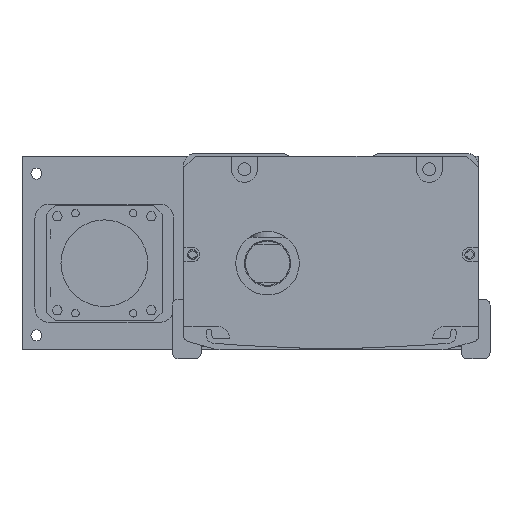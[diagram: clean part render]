
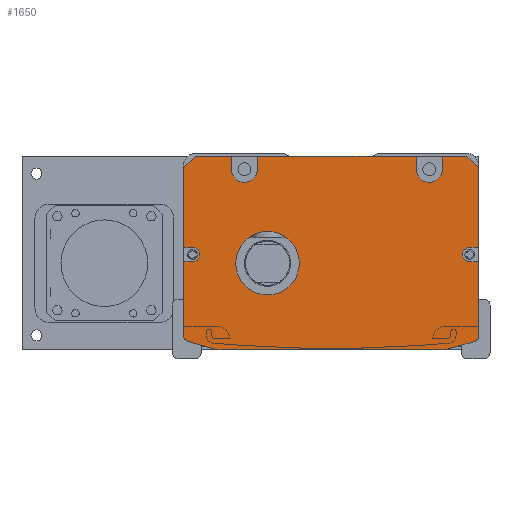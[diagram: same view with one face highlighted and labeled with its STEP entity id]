
A CAD part, front view. The second image highlights one B-rep face of the part: STEP entity #1650.
In plain terms, the highlighted planar face has unit normal (0, -1, 0).
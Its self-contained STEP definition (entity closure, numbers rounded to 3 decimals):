
#1650=ADVANCED_FACE('',(#4348,#4349),#2344,.F.);
#2344=PLANE('',#13833);
#2648=LINE('',#19323,#3453);
#2652=LINE('',#19331,#3457);
#2662=LINE('',#19352,#3467);
#2666=LINE('',#19360,#3471);
#2935=LINE('',#20353,#3740);
#2936=LINE('',#20355,#3741);
#2937=LINE('',#20357,#3742);
#2938=LINE('',#20361,#3743);
#2939=LINE('',#20363,#3744);
#2940=LINE('',#20365,#3745);
#2941=LINE('',#20369,#3746);
#2942=LINE('',#20371,#3747);
#2943=LINE('',#20373,#3748);
#2944=LINE('',#20374,#3749);
#2945=LINE('',#20378,#3750);
#2946=LINE('',#20381,#3751);
#2947=LINE('',#20385,#3752);
#2948=LINE('',#20389,#3753);
#2949=LINE('',#20392,#3754);
#2950=LINE('',#20396,#3755);
#3453=VECTOR('',#15129,1.);
#3457=VECTOR('',#15133,1.);
#3467=VECTOR('',#15145,1.);
#3471=VECTOR('',#15149,1.);
#3740=VECTOR('',#16214,1.);
#3741=VECTOR('',#16215,1.);
#3742=VECTOR('',#16216,1.);
#3743=VECTOR('',#16219,1.);
#3744=VECTOR('',#16220,1.);
#3745=VECTOR('',#16221,1.);
#3746=VECTOR('',#16224,1.);
#3747=VECTOR('',#16225,1.);
#3748=VECTOR('',#16226,1.);
#3749=VECTOR('',#16227,1.);
#3750=VECTOR('',#16230,1.);
#3751=VECTOR('',#16233,1.);
#3752=VECTOR('',#16236,1.);
#3753=VECTOR('',#16239,1.);
#3754=VECTOR('',#16242,1.);
#3755=VECTOR('',#16245,1.);
#4348=FACE_BOUND('',#5092,.T.);
#4349=FACE_BOUND('',#5093,.T.);
#5092=EDGE_LOOP('',(#7022,#7023,#7024,#7025,#7026,#7027,#7028,#7029,#7030,
#7031,#7032,#7033,#7034,#7035,#7036,#7037,#7038,#7039,#7040,#7041,#7042,
#7043,#7044,#7045,#7046,#7047,#7048,#7049));
#5093=EDGE_LOOP('',(#7050));
#7022=ORIENTED_EDGE('',*,*,#10986,.T.);
#7023=ORIENTED_EDGE('',*,*,#11470,.T.);
#7024=ORIENTED_EDGE('',*,*,#11471,.T.);
#7025=ORIENTED_EDGE('',*,*,#11472,.F.);
#7026=ORIENTED_EDGE('',*,*,#11473,.T.);
#7027=ORIENTED_EDGE('',*,*,#11474,.F.);
#7028=ORIENTED_EDGE('',*,*,#11475,.T.);
#7029=ORIENTED_EDGE('',*,*,#11476,.F.);
#7030=ORIENTED_EDGE('',*,*,#11477,.T.);
#7031=ORIENTED_EDGE('',*,*,#11478,.F.);
#7032=ORIENTED_EDGE('',*,*,#11479,.T.);
#7033=ORIENTED_EDGE('',*,*,#11480,.T.);
#7034=ORIENTED_EDGE('',*,*,#11004,.T.);
#7035=ORIENTED_EDGE('',*,*,#11481,.T.);
#7036=ORIENTED_EDGE('',*,*,#11482,.T.);
#7037=ORIENTED_EDGE('',*,*,#11483,.T.);
#7038=ORIENTED_EDGE('',*,*,#11000,.T.);
#7039=ORIENTED_EDGE('',*,*,#11484,.T.);
#7040=ORIENTED_EDGE('',*,*,#11485,.T.);
#7041=ORIENTED_EDGE('',*,*,#11486,.T.);
#7042=ORIENTED_EDGE('',*,*,#11487,.T.);
#7043=ORIENTED_EDGE('',*,*,#11488,.T.);
#7044=ORIENTED_EDGE('',*,*,#11489,.T.);
#7045=ORIENTED_EDGE('',*,*,#11490,.T.);
#7046=ORIENTED_EDGE('',*,*,#10990,.T.);
#7047=ORIENTED_EDGE('',*,*,#11491,.T.);
#7048=ORIENTED_EDGE('',*,*,#11492,.T.);
#7049=ORIENTED_EDGE('',*,*,#11493,.T.);
#7050=ORIENTED_EDGE('',*,*,#11494,.T.);
#9679=VERTEX_POINT('',#19322);
#9680=VERTEX_POINT('',#19324);
#9683=VERTEX_POINT('',#19330);
#9684=VERTEX_POINT('',#19332);
#9693=VERTEX_POINT('',#19351);
#9694=VERTEX_POINT('',#19353);
#9697=VERTEX_POINT('',#19359);
#9698=VERTEX_POINT('',#19361);
#10024=VERTEX_POINT('',#20354);
#10025=VERTEX_POINT('',#20356);
#10026=VERTEX_POINT('',#20358);
#10027=VERTEX_POINT('',#20360);
#10028=VERTEX_POINT('',#20362);
#10029=VERTEX_POINT('',#20364);
#10030=VERTEX_POINT('',#20366);
#10031=VERTEX_POINT('',#20368);
#10032=VERTEX_POINT('',#20370);
#10033=VERTEX_POINT('',#20372);
#10034=VERTEX_POINT('',#20375);
#10035=VERTEX_POINT('',#20377);
#10036=VERTEX_POINT('',#20380);
#10037=VERTEX_POINT('',#20382);
#10038=VERTEX_POINT('',#20384);
#10039=VERTEX_POINT('',#20386);
#10040=VERTEX_POINT('',#20388);
#10041=VERTEX_POINT('',#20390);
#10042=VERTEX_POINT('',#20393);
#10043=VERTEX_POINT('',#20395);
#10044=VERTEX_POINT('',#20398);
#10986=EDGE_CURVE('',#9680,#9679,#2648,.T.);
#10990=EDGE_CURVE('',#9684,#9683,#2652,.T.);
#11000=EDGE_CURVE('',#9694,#9693,#2662,.T.);
#11004=EDGE_CURVE('',#9698,#9697,#2666,.T.);
#11470=EDGE_CURVE('',#9679,#10024,#2935,.T.);
#11471=EDGE_CURVE('',#10024,#10025,#2936,.T.);
#11472=EDGE_CURVE('',#10026,#10025,#2937,.T.);
#11473=EDGE_CURVE('',#10026,#10027,#12884,.T.);
#11474=EDGE_CURVE('',#10028,#10027,#2938,.T.);
#11475=EDGE_CURVE('',#10028,#10029,#2939,.T.);
#11476=EDGE_CURVE('',#10030,#10029,#2940,.T.);
#11477=EDGE_CURVE('',#10030,#10031,#12885,.T.);
#11478=EDGE_CURVE('',#10032,#10031,#2941,.T.);
#11479=EDGE_CURVE('',#10032,#10033,#2942,.T.);
#11480=EDGE_CURVE('',#10033,#9698,#2943,.T.);
#11481=EDGE_CURVE('',#9697,#10034,#2944,.T.);
#11482=EDGE_CURVE('',#10034,#10035,#12886,.T.);
#11483=EDGE_CURVE('',#10035,#9694,#2945,.T.);
#11484=EDGE_CURVE('',#9693,#10036,#12887,.T.);
#11485=EDGE_CURVE('',#10036,#10037,#2946,.T.);
#11486=EDGE_CURVE('',#10037,#10038,#12888,.T.);
#11487=EDGE_CURVE('',#10038,#10039,#2947,.T.);
#11488=EDGE_CURVE('',#10039,#10040,#12889,.T.);
#11489=EDGE_CURVE('',#10040,#10041,#2948,.T.);
#11490=EDGE_CURVE('',#10041,#9684,#12890,.T.);
#11491=EDGE_CURVE('',#9683,#10042,#2949,.T.);
#11492=EDGE_CURVE('',#10042,#10043,#12891,.T.);
#11493=EDGE_CURVE('',#10043,#9680,#2950,.T.);
#11494=EDGE_CURVE('',#10044,#10044,#12892,.T.);
#12884=CIRCLE('',#13824,4.5);
#12885=CIRCLE('',#13825,4.5);
#12886=CIRCLE('',#13826,2.5);
#12887=CIRCLE('',#13827,2.);
#12888=CIRCLE('',#13828,10.);
#12889=CIRCLE('',#13829,10.);
#12890=CIRCLE('',#13830,2.);
#12891=CIRCLE('',#13831,2.5);
#12892=CIRCLE('',#13832,11.);
#13824=AXIS2_PLACEMENT_3D('',#20359,#16217,#16218);
#13825=AXIS2_PLACEMENT_3D('',#20367,#16222,#16223);
#13826=AXIS2_PLACEMENT_3D('',#20376,#16228,#16229);
#13827=AXIS2_PLACEMENT_3D('',#20379,#16231,#16232);
#13828=AXIS2_PLACEMENT_3D('',#20383,#16234,#16235);
#13829=AXIS2_PLACEMENT_3D('',#20387,#16237,#16238);
#13830=AXIS2_PLACEMENT_3D('',#20391,#16240,#16241);
#13831=AXIS2_PLACEMENT_3D('',#20394,#16243,#16244);
#13832=AXIS2_PLACEMENT_3D('',#20397,#16246,#16247);
#13833=AXIS2_PLACEMENT_3D('',#20399,#16248,#16249);
#15129=DIRECTION('',(0.,0.,1.));
#15133=DIRECTION('',(0.,0.,1.));
#15145=DIRECTION('',(0.,0.,-1.));
#15149=DIRECTION('',(0.,0.,-1.));
#16214=DIRECTION('',(-0.707,0.,0.707));
#16215=DIRECTION('',(-1.,0.,0.));
#16216=DIRECTION('',(0.,0.,1.));
#16217=DIRECTION('',(0.,1.,0.));
#16218=DIRECTION('',(0.,0.,1.));
#16219=DIRECTION('',(0.,0.,-1.));
#16220=DIRECTION('',(-1.,0.,0.));
#16221=DIRECTION('',(0.,0.,1.));
#16222=DIRECTION('',(0.,1.,0.));
#16223=DIRECTION('',(0.,0.,1.));
#16224=DIRECTION('',(0.,0.,-1.));
#16225=DIRECTION('',(-1.,0.,0.));
#16226=DIRECTION('',(-0.707,0.,-0.707));
#16227=DIRECTION('',(1.,0.,0.));
#16228=DIRECTION('',(0.,1.,0.));
#16229=DIRECTION('',(0.,0.,1.));
#16230=DIRECTION('',(-1.,0.,0.));
#16231=DIRECTION('',(0.,-1.,0.));
#16232=DIRECTION('',(0.,0.,1.));
#16233=DIRECTION('',(0.963,0.,-0.269));
#16234=DIRECTION('',(0.,-1.,0.));
#16235=DIRECTION('',(0.,0.,1.));
#16236=DIRECTION('',(1.,0.,0.));
#16237=DIRECTION('',(0.,-1.,0.));
#16238=DIRECTION('',(0.,0.,-1.));
#16239=DIRECTION('',(0.963,0.,0.269));
#16240=DIRECTION('',(0.,-1.,0.));
#16241=DIRECTION('',(0.,0.,-1.));
#16242=DIRECTION('',(-1.,0.,0.));
#16243=DIRECTION('',(0.,1.,0.));
#16244=DIRECTION('',(0.,0.,1.));
#16245=DIRECTION('',(1.,0.,0.));
#16246=DIRECTION('',(0.,1.,0.));
#16247=DIRECTION('',(0.,0.,1.));
#16248=DIRECTION('',(0.,1.,0.));
#16249=DIRECTION('',(1.,0.,0.));
#19322=CARTESIAN_POINT('',(47.808,-567.5,-5.));
#19323=CARTESIAN_POINT('',(47.808,-567.5,-1.));
#19324=CARTESIAN_POINT('',(47.808,-567.5,-32.5));
#19330=CARTESIAN_POINT('',(47.808,-567.5,-37.5));
#19331=CARTESIAN_POINT('',(47.808,-567.5,-1.));
#19332=CARTESIAN_POINT('',(47.808,-567.5,-63.212));
#19351=CARTESIAN_POINT('',(-54.192,-567.5,-63.212));
#19352=CARTESIAN_POINT('',(-54.192,-567.5,-62.));
#19353=CARTESIAN_POINT('',(-54.192,-567.5,-37.5));
#19359=CARTESIAN_POINT('',(-54.192,-567.5,-32.5));
#19360=CARTESIAN_POINT('',(-54.192,-567.5,-62.));
#19361=CARTESIAN_POINT('',(-54.192,-567.5,-5.));
#20353=CARTESIAN_POINT('',(43.808,-567.5,-1.));
#20354=CARTESIAN_POINT('',(43.808,-567.5,-1.));
#20355=CARTESIAN_POINT('',(-3.192,-567.5,-1.));
#20356=CARTESIAN_POINT('',(35.308,-567.5,-1.));
#20357=CARTESIAN_POINT('',(35.308,-567.5,-1.));
#20358=CARTESIAN_POINT('',(35.308,-567.5,-5.5));
#20359=CARTESIAN_POINT('',(30.808,-567.5,-5.5));
#20360=CARTESIAN_POINT('',(26.308,-567.5,-5.5));
#20361=CARTESIAN_POINT('',(26.308,-567.5,-1.));
#20362=CARTESIAN_POINT('',(26.308,-567.5,-1.));
#20363=CARTESIAN_POINT('',(-54.192,-567.5,-1.));
#20364=CARTESIAN_POINT('',(-28.692,-567.5,-1.));
#20365=CARTESIAN_POINT('',(-28.692,-567.5,-3.5));
#20366=CARTESIAN_POINT('',(-28.692,-567.5,-5.5));
#20367=CARTESIAN_POINT('',(-33.192,-567.5,-5.5));
#20368=CARTESIAN_POINT('',(-37.692,-567.5,-5.5));
#20369=CARTESIAN_POINT('',(-37.692,-567.5,-1.));
#20370=CARTESIAN_POINT('',(-37.692,-567.5,-1.));
#20371=CARTESIAN_POINT('',(-54.192,-567.5,-1.));
#20372=CARTESIAN_POINT('',(-50.192,-567.5,-1.));
#20373=CARTESIAN_POINT('',(-54.192,-567.5,-5.));
#20374=CARTESIAN_POINT('',(-3.192,-567.5,-32.5));
#20375=CARTESIAN_POINT('',(-51.192,-567.5,-32.5));
#20376=CARTESIAN_POINT('',(-51.192,-567.5,-35.));
#20377=CARTESIAN_POINT('',(-51.192,-567.5,-37.5));
#20378=CARTESIAN_POINT('',(-3.192,-567.5,-37.5));
#20379=CARTESIAN_POINT('',(-52.192,-567.5,-63.212));
#20380=CARTESIAN_POINT('',(-52.731,-567.5,-65.138));
#20381=CARTESIAN_POINT('',(-55.807,-567.5,-64.279));
#20382=CARTESIAN_POINT('',(-43.809,-567.5,-67.631));
#20383=CARTESIAN_POINT('',(-41.118,-567.5,-58.));
#20384=CARTESIAN_POINT('',(-41.118,-567.5,-68.));
#20385=CARTESIAN_POINT('',(-54.692,-567.5,-68.));
#20386=CARTESIAN_POINT('',(34.733,-567.5,-68.));
#20387=CARTESIAN_POINT('',(34.733,-567.5,-58.));
#20388=CARTESIAN_POINT('',(37.424,-567.5,-67.631));
#20389=CARTESIAN_POINT('',(49.422,-567.5,-64.279));
#20390=CARTESIAN_POINT('',(46.346,-567.5,-65.138));
#20391=CARTESIAN_POINT('',(45.808,-567.5,-63.212));
#20392=CARTESIAN_POINT('',(-3.192,-567.5,-37.5));
#20393=CARTESIAN_POINT('',(44.808,-567.5,-37.5));
#20394=CARTESIAN_POINT('',(44.808,-567.5,-35.));
#20395=CARTESIAN_POINT('',(44.808,-567.5,-32.5));
#20396=CARTESIAN_POINT('',(-3.192,-567.5,-32.5));
#20397=CARTESIAN_POINT('',(-25.192,-567.5,-38.));
#20398=CARTESIAN_POINT('',(-25.192,-567.5,-27.));
#20399=CARTESIAN_POINT('',(-3.192,-567.5,-1.));
